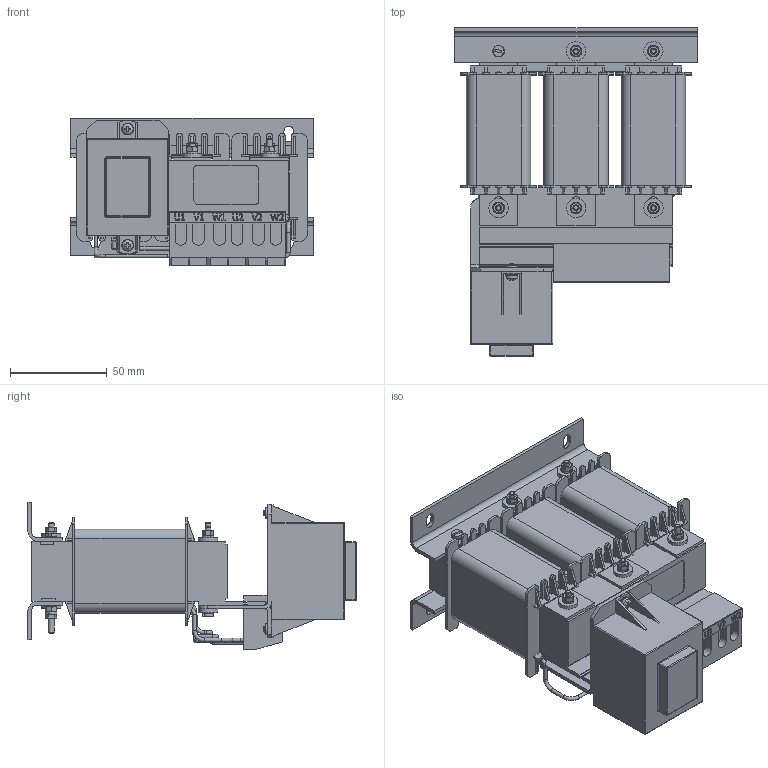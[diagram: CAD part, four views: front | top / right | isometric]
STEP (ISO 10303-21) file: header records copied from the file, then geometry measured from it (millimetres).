
FILE_DESCRIPTION((''),'2;1');
FILE_NAME('C:\Users\Samuel.Meier\Desktop\STEPPS\FN5040-4,5-82.stp','2016-04-25T17:34:23',('samuel.meier'),(''),'Autodesk Inventor 2013','Autodesk Inventor 2013','');
FILE_SCHEMA(('CONFIG_CONTROL_DESIGN'));
Length unit declared in the file: millimetre
Products named in the file (1): FN5040-4,5-82
Bounding box: 125 x 169.5 x 76 mm (x, y, z)
Volume: 436386.7 mm3; surface area: 164710.8 mm2
Topology: 1 solids, 1 shells, 1806 faces, 4763 edges, 3009 vertices
Faces by surface type: plane 1264, cylinder 344, torus 112, bspline 52, cone 24, sphere 10
Full cylindrical faces by diameter (mm): 2 x31, 2.731 x6, 3 x20, 3.1 x10, 3.2 x15, 4.2 x12, 4.5 x15, 4.8 x6, 5.6 x2, 5.623 x1, 5.7 x6, 6 x15, 10 x10
Entity records: 57081 total; most frequent: CARTESIAN_POINT 11895, ORIENTED_EDGE 9002, DIRECTION 8635, EDGE_CURVE 4501, VECTOR 3279, LINE 3279, VERTEX_POINT 2952, AXIS2_PLACEMENT_3D 2678
